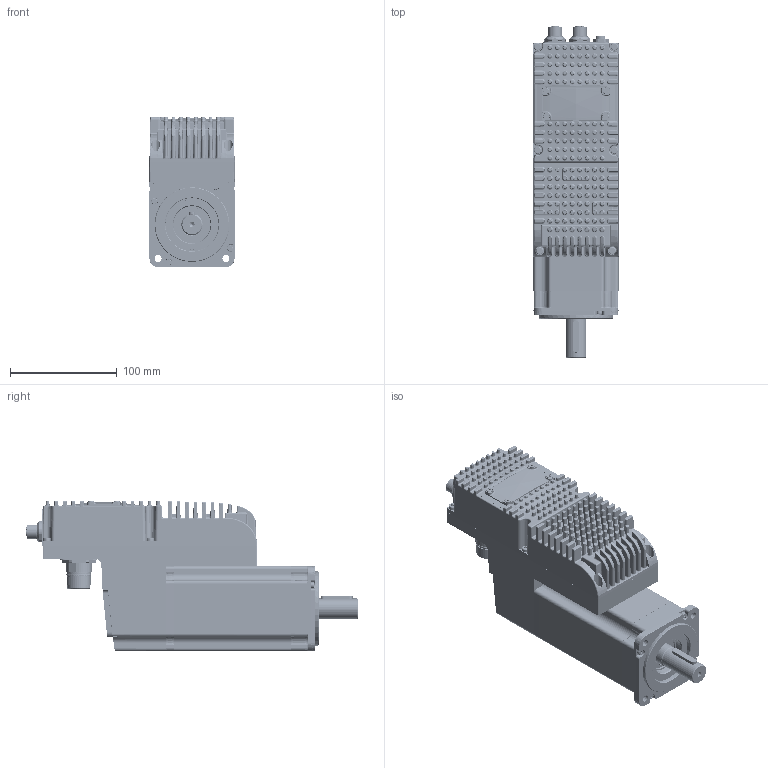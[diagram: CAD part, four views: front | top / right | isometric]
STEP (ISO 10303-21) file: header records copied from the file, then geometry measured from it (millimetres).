
FILE_DESCRIPTION(('CATIA V5 STEP Exchange'),'2;1');
FILE_NAME('F:\Meccanica\IBD\80\3D\assemblati\Custom MPC\DUET HV 80 4 A5 0 E 0\MD301522.0.0\DUET_HV_80_4_A5_0_E_0.stp','2015-07-23T06:36:47+00:00',('none'),('none'),'CATIA Version 5 Release 19 SP 2 (IN-10)','CATIA V5 STEP AP214','none');
FILE_SCHEMA(('AUTOMOTIVE_DESIGN { 1 0 10303 214 1 1 1 1 }'));
Products named in the file (56): DUET HV 80 4 A5 0 E 0; MD151014.1.0; MD081003.2.0; V_VTCTX40X12A; V_VTCTX3X6(8.8); LC101004.2.2.n; JS20MNQD6; JS26FSQ7; LT709037RLF1; UKSZ8721BLI; UET1100; JTP1633-2; PC101004.1.0; DLS5977701507; DLRR; DLRV; DWFR01FR10PS; LC051027.2.0; J_7458000000; Connettore_M23_IO; J_7001919137; frutto 16+3; contatto_1mm; contatto_1.5.mm; J_7651000000; Connettore_M23_pot; J_7084943101; JAC7010941001; JAC7010942001; MD081005.6.0; LC101003.3.0; PC101003.3.0; J_4301236; J_RKMHL4S55; JS20FDT7; dado_M12_conec; dado_M8_lumberg; MMTC804170012580Z4; Vite a brugola testa cil 8,8 -  M  3 x 10; Vite a brugola testa cil 8,8 -  M  3 x 50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
Assembly tree (103 placements, depth 4):
  DUET HV 80 4 A5 0 E 0
    MD151014.1.0
    MD081003.2.0
    V_VTCTX40X12A  x6
    V_VTCTX3X6(8.8)  x4
    LC101004.2.2.n
      JS20MNQD6
      JS26FSQ7
      LT709037RLF1  x2
      UKSZ8721BLI  x2
      UET1100
      JTP1633-2  x2
      PC101004.1.0
      DLS5977701507  x6
      DLRR
      DLRV  x3
      DWFR01FR10PS  x3
    LC051027.2.0
      J_7458000000
        Connettore_M23_IO
      J_7001919137
        frutto 16+3
        contatto_1mm  x16
        contatto_1.5.mm  x3
      J_7651000000
        Connettore_M23_pot
      J_7084943101
      JAC7010941001  x4
      JAC7010942001  x3
    MD081005.6.0
    LC101003.3.0
      PC101003.3.0
      J_4301236  x2
      J_RKMHL4S55
      JS20FDT7
    dado_M12_conec  x2
    dado_M8_lumberg
    MMTC804170012580Z4
      Vite a brugola testa cil 8,8 -  M  3 x 10  x2
      Vite a brugola testa cil 8,8 -  M  3 x 50  x2
      Vite a brugola testa cil 8,8 -  M  3 x 60  x2
      KI 80 4Nm_pred kit azionamento_enc std_OIH35_vuoto
        LI-PIA   6x6 x 30
        CUSC_20_42_12_6004_ZZ_4
        A-Ela  20
        N33278
        N33278_1
        N33283
        Vite a brugola testa cil 8,8 -  M  3 x 25
        Vite a brugola testa cil 8,8 -  M  3 x 25-oa0
        Vite a brugola testa cil 8,8 -  M  3 x 25-oa1
        Vite a brugola testa cil 8,8 -  M  3 x 25-oa2
        N25213_4Nm
        N01H37
      MD081001.4.0
    Dado_M23_IO  x2
Bounding box: 80 x 311.5 x 141.2 mm (x, y, z)
Volume: 738220.9 mm3; surface area: 406391.4 mm2
Topology: 104 solids, 107 shells, 10706 faces, 28423 edges, 18189 vertices
Faces by surface type: plane 4224, cylinder 3402, torus 1043, cone 948, bspline 645, sphere 317, extrusion 123, revolution 4
Entity records: 340658 total; most frequent: CARTESIAN_POINT 112731, ORIENTED_EDGE 44634, DIRECTION 30515, EDGE_CURVE 22317, VERTEX_POINT 14444, AXIS2_PLACEMENT_3D 14042, VECTOR 10268, LINE 10145
